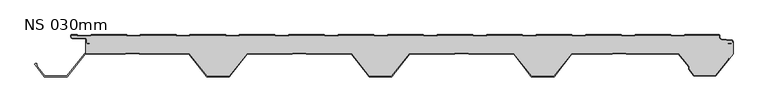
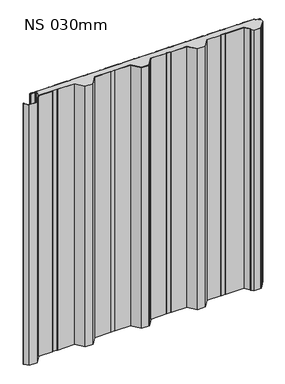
"""IFC4 building model written with IfcOpenShell, lengths in millimetres: plate geometry, KIP-MEX-KC-R19-CP-NS-SL : NS 030mm."""

from ifc_helpers import new_model, si_unit, point, frame, frame_2d, origin, origin_with_axes, place, context, project, spatial, polyline, circle_curve, trimmed, segment, composite_curve, outline, extrude, source, transform, mapped, element, save
from ifc_brep_helpers import plane_surface, cylinder_surface, revolved_surface, advanced_brep


def ns_030mm_47f54e74(model_context):
    return source(origin(), model_context, "Body", "SolidModel", [
        advanced_brep(
        [(489.051258, -40.0327477, 1224.3718713), (491.4166419, -35.6292245, 1224.3718713), (492.2982989, -36.1011177, 1224.3718713), (489.8911639, -40.5823669, 1224.3718713), (498.3652789, -29.7971296, 1224.3718713), (498.3666923, -11.2514375, 1224.3718713), (496.0840542, -13.6351997, 1224.3718713), (490.2938452, -14.1562355, 1224.3718713), (490.2059002, -13.178913, 1224.3718713), (495.9395891, -12.6629632, 1224.3718713), (497.3642752, -10.8760369, 1224.3718713), (495.9342793, -8.8936988, 1224.3718713), (479.8720443, -7.4885937, 1224.3718713), (477.1334803, -4.5000049, 1224.3718713), (477.1334803, -1.0, 1224.3718713), (424.1786391, -1.0, 1224.3718713), (422.7930062, -2.2002307, 1224.3718713), (403.4178399, -2.2002307, 1224.3718713), (402.0322069, -1.0, 1224.3718713), (347.9787915, -1.0, 1224.3718713), (346.5931586, -2.2002307, 1224.3718713), (327.2179923, -2.2002307, 1224.3718713), (325.8323593, -1.0, 1224.3718713), (271.7789439, -1.0, 1224.3718713), (270.393311, -2.2002307, 1224.3718713), (251.0181447, -2.2002307, 1224.3718713), (249.6325117, -1.0, 1224.3718713), (195.5790963, -1.0, 1224.3718713), (194.1934634, -2.2002307, 1224.3718713), (174.8182971, -2.2002307, 1224.3718713), (173.4326641, -1.0, 1224.3718713), (119.3792487, -1.0, 1224.3718713), (117.9936158, -2.2002307, 1224.3718713), (98.6184495, -2.2002307, 1224.3718713), (97.2328165, -1.0, 1224.3718713), (43.1794011, -1.0, 1224.3718713), (41.7937682, -2.2002307, 1224.3718713), (22.4186019, -2.2002307, 1224.3718713), (21.0329689, -1.0, 1224.3718713), (-33.0204465, -1.0, 1224.3718713), (-34.4060794, -2.2002307, 1224.3718713), (-53.7812457, -2.2002307, 1224.3718713), (-55.1668787, -1.0, 1224.3718713), (-109.2202941, -1.0, 1224.3718713), (-110.605927, -2.2002307, 1224.3718713), (-129.9810933, -2.2002307, 1224.3718713), (-131.3667263, -1.0, 1224.3718713), (-185.4201417, -1.0, 1224.3718713), (-186.8057746, -2.2002307, 1224.3718713), (-206.1809409, -2.2002307, 1224.3718713), (-207.5665739, -1.0, 1224.3718713), (-261.6199893, -1.0, 1224.3718713), (-263.0056222, -2.2002307, 1224.3718713), (-282.3807885, -2.2002307, 1224.3718713), (-283.7664215, -1.0, 1224.3718713), (-337.8198369, -1.0, 1224.3718713), (-339.2054698, -2.2002307, 1224.3718713), (-358.5806361, -2.2002307, 1224.3718713), (-359.9662691, -1.0, 1224.3718713), (-414.0196845, -1.0, 1224.3718713), (-415.4053174, -2.2002307, 1224.3718713), (-434.7804837, -2.2002307, 1224.3718713), (-436.1661167, -1.0, 1224.3718713), (-490.2195321, -1.0, 1224.3718713), (-491.605165, -2.2002307, 1224.3718713), (-510.9803313, -2.2002307, 1224.3718713), (-512.365974, -0.9999916, 1224.3718713), (-520.8675386, -0.9999916, 1224.3718713), (-520.8675386, -2.4999198, 1224.3718713), (-518.3676343, -4.9998241, 1224.3718713), (-500.3670493, -4.9998241, 1224.3718713), (-497.3666912, -7.998082, 1224.3718713), (-497.3666912, -11.5943952, 1224.3718713), (-496.1253972, -13.0725686, 1224.3718713), (-492.5830624, -13.6943971, 1224.3718713), (-492.7559608, -14.6793372, 1224.3718713), (-496.2982963, -14.0575086, 1224.3718713), (-498.3666923, -11.5958694, 1224.3718713), (-498.3666923, -29.0, 1224.3718713), (-437.8440582, -29.0, 1224.3718713), (-436.4297751, -27.9999989, 1224.3718713), (-417.2222535, -27.9999989, 1224.3718713), (-415.8079704, -29.0, 1224.3718713), (-339.3089934, -29.0, 1224.3718713), (-311.8089635, -64.000038, 1224.3718713), (-277.7809961, -64.000038, 1224.3718713), (-250.2809663, -29.0, 1224.3718713), (-180.8128881, -29.0, 1224.3718713), (-179.398605, -27.9999989, 1224.3718713), (-160.1910833, -27.9999989, 1224.3718713), (-158.7768003, -29.0, 1224.3718713), (-89.3087221, -29.0, 1224.3718713), (-61.8086922, -64.000038, 1224.3718713), (-27.7807248, -64.000038, 1224.3718713), (-0.280695, -29.0, 1224.3718713), (69.1090864, -29.0, 1224.3718713), (70.1732653, -27.9999989, 1224.3718713), (89.809188, -27.9999989, 1224.3718713), (91.2234711, -29.0, 1224.3718713), (160.6915492, -29.0, 1224.3718713), (188.1915791, -64.000038, 1224.3718713), (222.2195465, -64.000038, 1224.3718713), (249.7195763, -29.0, 1224.3718713), (312.1567557, -29.0, 1224.3718713), (313.5710388, -27.9999989, 1224.3718713), (332.7785605, -27.9999989, 1224.3718713), (334.1928435, -29.0, 1224.3718713), (414.6918249, -29.0, 1224.3718713), (430.7058064, -49.3814311, 1224.3718713), (430.7058064, -53.199617, 1224.3718713), (438.4061363, -63.0000369, 1224.3718713), (471.0055308, -63.0000369, 1224.3718713), (489.051258, -40.0327477, 0.0), (471.0055308, -63.0000369, 0.0), (438.4061363, -63.0000369, 0.0), (430.7058064, -53.199617, 0.0), (430.7058064, -49.3814311, 0.0), (414.6918249, -29.0, 0.0), (334.1928435, -29.0, 0.0), (332.7785605, -27.9999989, 0.0), (313.5710388, -27.9999989, 0.0), (312.1567557, -29.0, 0.0), (249.7195763, -29.0, 0.0), (222.2195465, -64.000038, 0.0), (188.1915791, -64.000038, 0.0), (160.6915492, -29.0, 0.0), (91.2234711, -29.0, 0.0), (89.809188, -27.9999989, 0.0), (70.1732653, -27.9999989, 0.0), (69.1090864, -29.0, 0.0), (-0.280695, -29.0, 0.0), (-27.7807248, -64.000038, 0.0), (-61.8086922, -64.000038, 0.0), (-89.3087221, -29.0, 0.0), (-158.7768003, -29.0, 0.0), (-160.1910833, -27.9999989, 0.0), (-179.398605, -27.9999989, 0.0), (-180.8128881, -29.0, 0.0), (-250.2809663, -29.0, 0.0), (-277.7809961, -64.000038, 0.0), (-311.8089635, -64.000038, 0.0), (-339.3089934, -29.0, 0.0), (-415.8079704, -29.0, 0.0), (-417.2222535, -27.9999989, 0.0), (-436.4297751, -27.9999989, 0.0), (-437.8440582, -29.0, 0.0), (-498.3666923, -29.0, 0.0), (-498.3666923, -11.5958694, 0.0), (-496.2982963, -14.0575086, 0.0), (-492.7559608, -14.6793372, 0.0), (-492.5830624, -13.6943971, 0.0), (-496.1253972, -13.0725686, 0.0), (-497.3666912, -11.5943952, 0.0), (-497.3666912, -7.998082, 0.0), (-500.3670493, -4.9998241, 0.0), (-518.3676343, -4.9998241, 0.0), (-520.8675386, -2.4999198, 0.0), (-520.8675386, -0.9999916, 0.0), (-512.365974, -0.9999916, 0.0), (-510.9803313, -2.2002307, 0.0), (-491.605165, -2.2002307, 0.0), (-490.2195321, -1.0, 0.0), (-436.1661167, -1.0, 0.0), (-434.7804837, -2.2002307, 0.0), (-415.4053174, -2.2002307, 0.0), (-414.0196845, -1.0, 0.0), (-359.9662691, -1.0, 0.0), (-358.5806361, -2.2002307, 0.0), (-339.2054698, -2.2002307, 0.0), (-337.8198369, -1.0, 0.0), (-283.7664215, -1.0, 0.0), (-282.3807885, -2.2002307, 0.0), (-263.0056222, -2.2002307, 0.0), (-261.6199893, -1.0, 0.0), (-207.5665739, -1.0, 0.0), (-206.1809409, -2.2002307, 0.0), (-186.8057746, -2.2002307, 0.0), (-185.4201417, -1.0, 0.0), (-131.3667263, -1.0, 0.0), (-129.9810933, -2.2002307, 0.0), (-110.605927, -2.2002307, 0.0), (-109.2202941, -1.0, 0.0), (-55.1668787, -1.0, 0.0), (-53.7812457, -2.2002307, 0.0), (-34.4060794, -2.2002307, 0.0), (-33.0204465, -1.0, 0.0), (21.0329689, -1.0, 0.0), (22.4186019, -2.2002307, 0.0), (41.7937682, -2.2002307, 0.0), (43.1794011, -1.0, 0.0), (97.2328165, -1.0, 0.0), (98.6184495, -2.2002307, 0.0), (117.9936158, -2.2002307, 0.0), (119.3792487, -1.0, 0.0), (173.4326641, -1.0, 0.0), (174.8182971, -2.2002307, 0.0), (194.1934634, -2.2002307, 0.0), (195.5790963, -1.0, 0.0), (249.6325117, -1.0, 0.0), (251.0181447, -2.2002307, 0.0), (270.393311, -2.2002307, 0.0), (271.7789439, -1.0, 0.0), (325.8323593, -1.0, 0.0), (327.2179923, -2.2002307, 0.0), (346.5931586, -2.2002307, 0.0), (347.9787915, -1.0, 0.0), (402.0322069, -1.0, 0.0), (403.4178399, -2.2002307, 0.0), (422.7930062, -2.2002307, 0.0), (424.1786391, -1.0, 0.0), (477.1334803, -1.0, 0.0), (477.1334803, -4.5000049, 0.0), (479.8720443, -7.4885937, 0.0), (495.9342793, -8.8936988, 0.0), (497.3642752, -10.8760369, 0.0), (495.9395891, -12.6629632, 0.0), (490.2059002, -13.178913, 0.0), (490.2938452, -14.1562355, 0.0), (496.0840542, -13.6351997, 0.0), (498.3666923, -11.2514375, 0.0), (498.3652789, -29.7971296, 0.0), (489.8911639, -40.5823669, 0.0), (492.2982989, -36.1011177, 0.0), (491.4166419, -35.6292245, 0.0)],
        [
            (0, 1),
            (1, 2),
            (2, 3),
            (3, 4),
            (4, 5),
            (5, 6, circle_curve(frame((495.5554081, -10.8441969, 1224.3718713), z_axis=(0.0, 0.0, -1.0), x_axis=(0.0, -1.0, 0.0)), 2.8406273)),
            (6, 7),
            (7, 8),
            (8, 9),
            (9, 10, circle_curve(frame((495.560247, -10.8991179, 1224.3718713), z_axis=(0.0, 0.0, 1.0), x_axis=(0.0, -1.0, 0.0)), 1.8041759)),
            (10, 11, circle_curve(frame((495.5292107, -10.6928483, 1224.3718713), z_axis=(0.0, 0.0, 1.0), x_axis=(0.0, -1.0, 0.0)), 1.8441854)),
            (11, 12),
            (12, 13, circle_curve(frame((480.1334825, -4.5000049, 1224.3718713), z_axis=(0.0, 0.0, -1.0), x_axis=(0.0, -1.0, 0.0)), 3.0000022)),
            (13, 14),
            (14, 15),
            (15, 16),
            (16, 17),
            (17, 18),
            (18, 19),
            (19, 20),
            (20, 21),
            (21, 22),
            (22, 23),
            (23, 24),
            (24, 25),
            (25, 26),
            (26, 27),
            (27, 28),
            (28, 29),
            (29, 30),
            (30, 31),
            (31, 32),
            (32, 33),
            (33, 34),
            (34, 35),
            (35, 36),
            (36, 37),
            (37, 38),
            (38, 39),
            (39, 40),
            (40, 41),
            (41, 42),
            (42, 43),
            (43, 44),
            (44, 45),
            (45, 46),
            (46, 47),
            (47, 48),
            (48, 49),
            (49, 50),
            (50, 51),
            (51, 52),
            (52, 53),
            (53, 54),
            (54, 55),
            (55, 56),
            (56, 57),
            (57, 58),
            (58, 59),
            (59, 60),
            (60, 61),
            (61, 62),
            (62, 63),
            (63, 64),
            (64, 65),
            (65, 66),
            (66, 67),
            (67, 68),
            (68, 69, circle_curve(frame((-518.3676343, -2.4999198, 1224.3718713), z_axis=(0.0, 0.0, 1.0), x_axis=(0.0, -1.0, 0.0)), 2.4999043)),
            (69, 70),
            (70, 71, circle_curve(frame((-500.3670493, -8.0001829, 1224.3718713), z_axis=(0.0, 0.0, -1.0), x_axis=(0.0, -1.0, 0.0)), 3.0003589)),
            (71, 72),
            (72, 73, circle_curve(frame((-495.8659157, -11.5943952, 1224.3718713), z_axis=(0.0, 0.0, 1.0), x_axis=(0.0, -1.0, 0.0)), 1.5007755)),
            (73, 74),
            (74, 75),
            (75, 76),
            (76, 77, circle_curve(frame((-495.8659164, -11.5943948, 1224.3718713), z_axis=(0.0, 0.0, -1.0), x_axis=(0.0, -1.0, 0.0)), 2.5007762)),
            (77, 78),
            (78, 79),
            (79, 80),
            (80, 81),
            (81, 82),
            (82, 83),
            (83, 84),
            (84, 85),
            (85, 86),
            (86, 87),
            (87, 88),
            (88, 89),
            (89, 90),
            (90, 91),
            (91, 92),
            (92, 93),
            (93, 94),
            (94, 95),
            (95, 96),
            (96, 97),
            (97, 98),
            (98, 99),
            (99, 100),
            (100, 101),
            (101, 102),
            (102, 103),
            (103, 104),
            (104, 105),
            (105, 106),
            (106, 107),
            (107, 108),
            (108, 109),
            (109, 110),
            (110, 111),
            (111, 0),
            (112, 113),
            (113, 114),
            (114, 115),
            (115, 116),
            (116, 117),
            (117, 118),
            (118, 119),
            (119, 120),
            (120, 121),
            (121, 122),
            (122, 123),
            (123, 124),
            (124, 125),
            (125, 126),
            (126, 127),
            (127, 128),
            (128, 129),
            (129, 130),
            (130, 131),
            (131, 132),
            (132, 133),
            (133, 134),
            (134, 135),
            (135, 136),
            (136, 137),
            (137, 138),
            (138, 139),
            (139, 140),
            (140, 141),
            (141, 142),
            (142, 143),
            (143, 144),
            (144, 145),
            (145, 146),
            (146, 147),
            (147, 148, circle_curve(frame((-495.8659164, -11.5943948, 0.0), z_axis=(0.0, 0.0, 1.0), x_axis=(0.0, -1.0, 0.0)), 2.5007762)),
            (148, 149),
            (149, 150),
            (150, 151),
            (151, 152, circle_curve(frame((-495.8659157, -11.5943952, 0.0), z_axis=(0.0, 0.0, -1.0), x_axis=(0.0, -1.0, 0.0)), 1.5007755)),
            (152, 153),
            (153, 154, circle_curve(frame((-500.3670493, -8.0001829, 0.0), z_axis=(0.0, 0.0, 1.0), x_axis=(0.0, -1.0, 0.0)), 3.0003589)),
            (154, 155),
            (155, 156, circle_curve(frame((-518.3676343, -2.4999198, 0.0), z_axis=(0.0, 0.0, -1.0), x_axis=(0.0, -1.0, 0.0)), 2.4999043)),
            (156, 157),
            (157, 158),
            (158, 159),
            (159, 160),
            (160, 161),
            (161, 162),
            (162, 163),
            (163, 164),
            (164, 165),
            (165, 166),
            (166, 167),
            (167, 168),
            (168, 169),
            (169, 170),
            (170, 171),
            (171, 172),
            (172, 173),
            (173, 174),
            (174, 175),
            (175, 176),
            (176, 177),
            (177, 178),
            (178, 179),
            (179, 180),
            (180, 181),
            (181, 182),
            (182, 183),
            (183, 184),
            (184, 185),
            (185, 186),
            (186, 187),
            (187, 188),
            (188, 189),
            (189, 190),
            (190, 191),
            (191, 192),
            (192, 193),
            (193, 194),
            (194, 195),
            (195, 196),
            (196, 197),
            (197, 198),
            (198, 199),
            (199, 200),
            (200, 201),
            (201, 202),
            (202, 203),
            (203, 204),
            (204, 205),
            (205, 206),
            (206, 207),
            (207, 208),
            (208, 209),
            (209, 210),
            (210, 211),
            (211, 212, circle_curve(frame((480.1334825, -4.5000049, 0.0), z_axis=(0.0, 0.0, 1.0), x_axis=(0.0, -1.0, 0.0)), 3.0000022)),
            (212, 213),
            (213, 214, circle_curve(frame((495.5292107, -10.6928483, 0.0), z_axis=(0.0, 0.0, -1.0), x_axis=(0.0, -1.0, 0.0)), 1.8441854)),
            (214, 215, circle_curve(frame((495.560247, -10.8991179, 0.0), z_axis=(0.0, 0.0, -1.0), x_axis=(0.0, -1.0, 0.0)), 1.8041759)),
            (215, 216),
            (216, 217),
            (217, 218),
            (218, 219, circle_curve(frame((495.5554081, -10.8441969, 0.0), z_axis=(0.0, 0.0, 1.0), x_axis=(0.0, -1.0, 0.0)), 2.8406273)),
            (219, 220),
            (220, 221),
            (221, 222),
            (222, 223),
            (223, 112),
            (0, 112),
            (223, 1),
            (111, 113),
            (110, 114),
            (109, 115),
            (108, 116),
            (107, 117),
            (106, 118),
            (105, 119),
            (104, 120),
            (103, 121),
            (102, 122),
            (101, 123),
            (100, 124),
            (99, 125),
            (98, 126),
            (97, 127),
            (96, 128),
            (95, 129),
            (94, 130),
            (93, 131),
            (92, 132),
            (91, 133),
            (90, 134),
            (89, 135),
            (88, 136),
            (87, 137),
            (86, 138),
            (85, 139),
            (84, 140),
            (83, 141),
            (82, 142),
            (81, 143),
            (80, 144),
            (79, 145),
            (78, 146),
            (2, 222),
            (221, 3),
            (220, 4),
            (219, 5),
            (77, 147),
            (73, 151),
            (150, 74),
            (72, 152),
            (71, 153),
            (70, 154),
            (69, 155),
            (68, 156),
            (67, 157),
            (13, 211),
            (210, 14),
            (12, 212),
            (11, 213),
            (10, 214),
            (9, 215),
            (8, 216),
            (7, 217),
            (6, 218),
            (76, 148),
            (75, 149),
            (66, 158),
            (65, 159),
            (64, 160),
            (63, 161),
            (62, 162),
            (61, 163),
            (60, 164),
            (59, 165),
            (58, 166),
            (57, 167),
            (56, 168),
            (55, 169),
            (54, 170),
            (53, 171),
            (52, 172),
            (51, 173),
            (50, 174),
            (49, 175),
            (48, 176),
            (47, 177),
            (46, 178),
            (45, 179),
            (44, 180),
            (43, 181),
            (42, 182),
            (41, 183),
            (40, 184),
            (39, 185),
            (38, 186),
            (37, 187),
            (36, 188),
            (35, 189),
            (34, 190),
            (33, 191),
            (32, 192),
            (31, 193),
            (30, 194),
            (29, 195),
            (28, 196),
            (27, 197),
            (26, 198),
            (25, 199),
            (24, 200),
            (23, 201),
            (22, 202),
            (21, 203),
            (20, 204),
            (19, 205),
            (18, 206),
            (17, 207),
            (16, 208),
            (15, 209),
        ],
        [
            plane_surface(frame((0.0, -29.0, 1224.3718713), z_axis=(0.0, 0.0, 1.0), x_axis=(0.0, -1.0, 0.0))),
            plane_surface(frame((0.0, -29.0, 0.0), z_axis=(0.0, 0.0, -1.0), x_axis=(0.0, -1.0, 0.0))),
            plane_surface(frame((491.4166419, -35.6292245, 1224.3718713), z_axis=(0.8809503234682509, -0.4732087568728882, 0.0), x_axis=(0.0, 0.0, -1.0))),
            plane_surface(frame((489.051258, -40.0327477, 1224.3718713), z_axis=(0.7863183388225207, -0.6178215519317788, 0.0), x_axis=(0.0, 0.0, -1.0))),
            plane_surface(frame((471.0055308, -63.0000369, 1224.3718713), z_axis=(0.0, -1.0, 0.0), x_axis=(0.0, 0.0, -1.0))),
            plane_surface(frame((438.4061363, -63.0000369, 1224.3718713), z_axis=(-0.7863183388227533, -0.6178215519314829, 0.0), x_axis=(0.0, 0.0, -1.0))),
            plane_surface(frame((430.7058064, -53.199617, 1224.3718713), z_axis=(-1.0, 0.0, 0.0), x_axis=(0.0, 0.0, -1.0))),
            plane_surface(frame((430.7058064, -49.3814311, 1224.3718713), z_axis=(-0.7863183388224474, -0.6178215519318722, 0.0), x_axis=(0.0, 0.0, -1.0))),
            plane_surface(frame((414.6918249, -29.0, 1224.3718713), z_axis=(0.0, -1.0, 0.0), x_axis=(0.0, 0.0, -1.0))),
            plane_surface(frame((334.1928435, -29.0, 1224.3718713), z_axis=(-0.5773317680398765, -0.8165096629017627, 0.0), x_axis=(0.0, 0.0, -1.0))),
            plane_surface(frame((332.7785605, -27.9999989, 1224.3718713), z_axis=(0.0, -1.0, 0.0), x_axis=(0.0, 0.0, -1.0))),
            plane_surface(frame((313.5710388, -27.9999989, 1224.3718713), z_axis=(0.5773317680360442, -0.8165096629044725, 0.0), x_axis=(0.0, 0.0, -1.0))),
            plane_surface(frame((312.1567557, -29.0, 1224.3718713), z_axis=(0.0, -1.0, 0.0), x_axis=(0.0, 0.0, -1.0))),
            plane_surface(frame((249.7195763, -29.0, 1224.3718713), z_axis=(0.7863183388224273, -0.6178215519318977, 0.0), x_axis=(0.0, 0.0, -1.0))),
            plane_surface(frame((222.2195465, -64.000038, 1224.3718713), z_axis=(0.0, -1.0, 0.0), x_axis=(0.0, 0.0, -1.0))),
            plane_surface(frame((188.1915791, -64.000038, 1224.3718713), z_axis=(-0.7863183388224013, -0.6178215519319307, 0.0), x_axis=(0.0, 0.0, -1.0))),
            plane_surface(frame((160.6915492, -29.0, 1224.3718713), z_axis=(0.0, -1.0, 0.0), x_axis=(0.0, 0.0, -1.0))),
            plane_surface(frame((91.2234711, -29.0, 1224.3718713), z_axis=(-0.5773317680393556, -0.8165096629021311, 0.0), x_axis=(0.0, 0.0, -1.0))),
            plane_surface(frame((89.809188, -27.9999989, 1224.3718713), z_axis=(0.0, -1.0, 0.0), x_axis=(0.0, 0.0, -1.0))),
            plane_surface(frame((70.1732653, -27.9999989, 1224.3718713), z_axis=(0.6847910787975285, -0.7287394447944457, 0.0), x_axis=(0.0, 0.0, -1.0))),
            plane_surface(frame((69.1090864, -29.0, 1224.3718713), z_axis=(0.0, -1.0, 0.0), x_axis=(0.0, 0.0, -1.0))),
            plane_surface(frame((-0.280695, -29.0, 1224.3718713), z_axis=(0.7863183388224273, -0.6178215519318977, 0.0), x_axis=(0.0, 0.0, -1.0))),
            plane_surface(frame((-27.7807248, -64.000038, 1224.3718713), z_axis=(0.0, -1.0, 0.0), x_axis=(0.0, 0.0, -1.0))),
            plane_surface(frame((-61.8086922, -64.000038, 1224.3718713), z_axis=(-0.786318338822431, -0.617821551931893, 0.0), x_axis=(0.0, 0.0, -1.0))),
            plane_surface(frame((-89.3087221, -29.0, 1224.3718713), z_axis=(0.0, -1.0, 0.0), x_axis=(0.0, 0.0, -1.0))),
            plane_surface(frame((-158.7768003, -29.0, 1224.3718713), z_axis=(-0.5773317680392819, -0.8165096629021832, 0.0), x_axis=(0.0, 0.0, -1.0))),
            plane_surface(frame((-160.1910833, -27.9999989, 1224.3718713), z_axis=(0.0, -1.0, 0.0), x_axis=(0.0, 0.0, -1.0))),
            plane_surface(frame((-179.398605, -27.9999989, 1224.3718713), z_axis=(0.577331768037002, -0.8165096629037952, 0.0), x_axis=(0.0, 0.0, -1.0))),
            plane_surface(frame((-180.8128881, -29.0, 1224.3718713), z_axis=(0.0, -1.0, 0.0), x_axis=(0.0, 0.0, -1.0))),
            plane_surface(frame((-250.2809663, -29.0, 1224.3718713), z_axis=(0.7863183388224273, -0.6178215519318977, 0.0), x_axis=(0.0, 0.0, -1.0))),
            plane_surface(frame((-277.7809961, -64.000038, 1224.3718713), z_axis=(0.0, -1.0, 0.0), x_axis=(0.0, 0.0, -1.0))),
            plane_surface(frame((-311.8089635, -64.000038, 1224.3718713), z_axis=(-0.7863183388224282, -0.6178215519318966, 0.0), x_axis=(0.0, 0.0, -1.0))),
            plane_surface(frame((-339.3089934, -29.0, 1224.3718713), z_axis=(0.0, -1.0, 0.0), x_axis=(0.0, 0.0, -1.0))),
            plane_surface(frame((-415.8079704, -29.0, 1224.3718713), z_axis=(-0.577331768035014, -0.8165096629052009, 0.0), x_axis=(0.0, 0.0, -1.0))),
            plane_surface(frame((-417.2222535, -27.9999989, 1224.3718713), z_axis=(0.0, -1.0, 0.0), x_axis=(0.0, 0.0, -1.0))),
            plane_surface(frame((-436.4297751, -27.9999989, 1224.3718713), z_axis=(0.577331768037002, -0.8165096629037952, 0.0), x_axis=(0.0, 0.0, -1.0))),
            plane_surface(frame((-437.8440582, -29.0, 1224.3718713), z_axis=(0.0, -1.0, 0.0), x_axis=(0.0, 0.0, -1.0))),
            plane_surface(frame((489.8911639, -40.5823669, 1224.3718713), z_axis=(-0.8809503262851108, 0.4732087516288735, 0.0), x_axis=(0.0, 0.0, -1.0))),
            plane_surface(frame((492.2982989, -36.1011177, 1224.3718713), z_axis=(-0.4718927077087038, -0.8816559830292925, 0.0), x_axis=(0.0, 0.0, -1.0))),
            plane_surface(frame((498.3652789, -29.7971296, 1224.3718713), z_axis=(0.7863183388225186, -0.6178215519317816, 0.0), x_axis=(0.0, 0.0, -1.0))),
            plane_surface(frame((498.3652789, -24.8065083, 1224.3718713), z_axis=(1.0, 0.0, 0.0), x_axis=(0.0, 0.0, -1.0))),
            plane_surface(frame((-498.3666923, -29.0, 1224.3718713), z_axis=(-1.0, 0.0, 0.0), x_axis=(0.0, 0.0, -1.0))),
            plane_surface(frame((-492.5830624, -13.6943971, 1224.3718713), z_axis=(-0.17289827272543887, -0.9849396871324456, 0.0), x_axis=(0.0, 0.0, -1.0))),
            cylinder_surface(frame((-495.8659157, -11.5943952, 1224.3718713), z_axis=(0.0, 0.0, 1.0), x_axis=(0.0, -1.0, 0.0)), 1.5007755),
            plane_surface(frame((-497.3666912, -11.5943952, 1224.3718713), z_axis=(-1.0, 0.0, 0.0), x_axis=(0.0, 0.0, -1.0))),
            revolved_surface(polyline([(-500.3670493, -11.0005418, 0.0), (-500.3670493, -11.0005418, 1224.3718713)]), (-500.3670493, -8.0001829, 1224.3718713), (0.0, 0.0, -1.0)),
            plane_surface(frame((-500.3670493, -4.9998241, 1224.3718713), z_axis=(0.0, -1.0, 0.0), x_axis=(0.0, 0.0, -1.0))),
            cylinder_surface(frame((-518.3676343, -2.4999198, 1224.3718713), z_axis=(0.0, 0.0, 1.0), x_axis=(0.0, -1.0, 0.0)), 2.4999043),
            plane_surface(frame((-520.8675386, -2.4999198, 1224.3718713), z_axis=(-1.0, 0.0, 0.0), x_axis=(0.0, 0.0, -1.0))),
            plane_surface(frame((477.1334803, -1.0, 1224.3718713), z_axis=(1.0, 0.0, 0.0), x_axis=(0.0, 0.0, -1.0))),
            revolved_surface(polyline([(480.1334825, -7.5000071, 0.0), (480.1334825, -7.5000071, 1224.3718713)]), (480.1334825, -4.5000049, 1224.3718713), (0.0, 0.0, -1.0)),
            plane_surface(frame((479.8720443, -7.4885937, 1224.3718713), z_axis=(0.0871459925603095, 0.9961955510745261, 0.0), x_axis=(0.0, 0.0, -1.0))),
            cylinder_surface(frame((495.5292107, -10.6928483, 1224.3718713), z_axis=(0.0, 0.0, 1.0), x_axis=(0.0, -1.0, 0.0)), 1.8441854),
            cylinder_surface(frame((495.560247, -10.8991179, 1224.3718713), z_axis=(0.0, 0.0, 1.0), x_axis=(0.0, -1.0, 0.0)), 1.8041759),
            plane_surface(frame((495.9395891, -12.6629632, 1224.3718713), z_axis=(0.0896235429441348, -0.995975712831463, 0.0), x_axis=(0.0, 0.0, -1.0))),
            plane_surface(frame((490.2059002, -13.178913, 1224.3718713), z_axis=(0.9959757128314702, 0.08962354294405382, 0.0), x_axis=(0.0, 0.0, -1.0))),
            plane_surface(frame((490.2938452, -14.1562355, 1224.3718713), z_axis=(-0.0896235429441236, 0.995975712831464, 0.0), x_axis=(0.0, 0.0, -1.0))),
            revolved_surface(polyline([(495.5554081, -13.6848242, 0.0), (495.5554081, -13.6848242, 1224.3718713)]), (495.5554081, -10.8441969, 1224.3718713), (0.0, 0.0, -1.0)),
            revolved_surface(polyline([(-495.8659164, -14.095171, 0.0), (-495.8659164, -14.095171, 1224.3718713)]), (-495.8659164, -11.5943948, 1224.3718713), (0.0, 0.0, -1.0)),
            plane_surface(frame((-496.2982963, -14.0575086, 1224.3718713), z_axis=(0.17289827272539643, 0.9849396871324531, 0.0), x_axis=(0.0, 0.0, -1.0))),
            plane_surface(frame((-492.7559608, -14.6793372, 1224.3718713), z_axis=(-0.9849396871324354, 0.1728982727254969, 0.0), x_axis=(0.0, 0.0, -1.0))),
            plane_surface(frame((-520.8675386, -0.9999916, 1224.3718713), z_axis=(0.0, 1.0, 0.0), x_axis=(0.0, 0.0, -1.0))),
            plane_surface(frame((-512.365974, -0.9999916, 1224.3718713), z_axis=(0.6547276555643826, 0.7558648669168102, 0.0), x_axis=(0.0, 0.0, -1.0))),
            plane_surface(frame((-510.9803313, -2.2002307, 1224.3718713), z_axis=(0.0, 1.0, 0.0), x_axis=(0.0, 0.0, -1.0))),
            plane_surface(frame((-491.605165, -2.2002307, 1224.3718713), z_axis=(-0.6547276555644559, 0.7558648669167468, 0.0), x_axis=(0.0, 0.0, -1.0))),
            plane_surface(frame((-490.2195321, -1.0, 1224.3718713), z_axis=(0.0, 1.0, 0.0), x_axis=(0.0, 0.0, -1.0))),
            plane_surface(frame((-436.1661167, -1.0, 1224.3718713), z_axis=(0.6547276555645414, 0.7558648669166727, 0.0), x_axis=(0.0, 0.0, -1.0))),
            plane_surface(frame((-434.7804837, -2.2002307, 1224.3718713), z_axis=(0.0, 1.0, 0.0), x_axis=(0.0, 0.0, -1.0))),
            plane_surface(frame((-415.4053174, -2.2002307, 1224.3718713), z_axis=(-0.6547276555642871, 0.755864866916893, 0.0), x_axis=(0.0, 0.0, -1.0))),
            plane_surface(frame((-414.0196845, -1.0, 1224.3718713), z_axis=(0.0, 1.0, 0.0), x_axis=(0.0, 0.0, -1.0))),
            plane_surface(frame((-359.9662691, -1.0, 1224.3718713), z_axis=(0.6547276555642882, 0.7558648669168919, 0.0), x_axis=(0.0, 0.0, -1.0))),
            plane_surface(frame((-358.5806361, -2.2002307, 1224.3718713), z_axis=(0.0, 1.0, 0.0), x_axis=(0.0, 0.0, -1.0))),
            plane_surface(frame((-339.2054698, -2.2002307, 1224.3718713), z_axis=(-0.6547276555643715, 0.7558648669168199, 0.0), x_axis=(0.0, 0.0, -1.0))),
            plane_surface(frame((-337.8198369, -1.0, 1224.3718713), z_axis=(0.0, 1.0, 0.0), x_axis=(0.0, 0.0, -1.0))),
            plane_surface(frame((-283.7664215, -1.0, 1224.3718713), z_axis=(0.6547276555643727, 0.7558648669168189, 0.0), x_axis=(0.0, 0.0, -1.0))),
            plane_surface(frame((-282.3807885, -2.2002307, 1224.3718713), z_axis=(0.0, 1.0, 0.0), x_axis=(0.0, 0.0, -1.0))),
            plane_surface(frame((-263.0056222, -2.2002307, 1224.3718713), z_axis=(-0.6547276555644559, 0.7558648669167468, 0.0), x_axis=(0.0, 0.0, -1.0))),
            plane_surface(frame((-261.6199893, -1.0, 1224.3718713), z_axis=(0.0, 1.0, 0.0), x_axis=(0.0, 0.0, -1.0))),
            plane_surface(frame((-207.5665739, -1.0, 1224.3718713), z_axis=(0.654727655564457, 0.7558648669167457, 0.0), x_axis=(0.0, 0.0, -1.0))),
            plane_surface(frame((-206.1809409, -2.2002307, 1224.3718713), z_axis=(0.0, 1.0, 0.0), x_axis=(0.0, 0.0, -1.0))),
            plane_surface(frame((-186.8057746, -2.2002307, 1224.3718713), z_axis=(-0.6547276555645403, 0.7558648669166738, 0.0), x_axis=(0.0, 0.0, -1.0))),
            plane_surface(frame((-185.4201417, -1.0, 1224.3718713), z_axis=(0.0, 1.0, 0.0), x_axis=(0.0, 0.0, -1.0))),
            plane_surface(frame((-131.3667263, -1.0, 1224.3718713), z_axis=(0.6547276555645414, 0.7558648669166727, 0.0), x_axis=(0.0, 0.0, -1.0))),
            plane_surface(frame((-129.9810933, -2.2002307, 1224.3718713), z_axis=(0.0, 1.0, 0.0), x_axis=(0.0, 0.0, -1.0))),
            plane_surface(frame((-110.605927, -2.2002307, 1224.3718713), z_axis=(-0.6547276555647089, 0.7558648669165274, 0.0), x_axis=(0.0, 0.0, -1.0))),
            plane_surface(frame((-109.2202941, -1.0, 1224.3718713), z_axis=(0.0, 1.0, 0.0), x_axis=(0.0, 0.0, -1.0))),
            plane_surface(frame((-55.1668787, -1.0, 1224.3718713), z_axis=(0.6547276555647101, 0.7558648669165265, 0.0), x_axis=(0.0, 0.0, -1.0))),
            plane_surface(frame((-53.7812457, -2.2002307, 1224.3718713), z_axis=(0.0, 1.0, 0.0), x_axis=(0.0, 0.0, -1.0))),
            plane_surface(frame((-34.4060794, -2.2002307, 1224.3718713), z_axis=(-0.6547276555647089, 0.7558648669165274, 0.0), x_axis=(0.0, 0.0, -1.0))),
            plane_surface(frame((-33.0204465, -1.0, 1224.3718713), z_axis=(0.0, 1.0, 0.0), x_axis=(0.0, 0.0, -1.0))),
            plane_surface(frame((21.0329689, -1.0, 1224.3718713), z_axis=(0.6547276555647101, 0.7558648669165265, 0.0), x_axis=(0.0, 0.0, -1.0))),
            plane_surface(frame((22.4186019, -2.2002307, 1224.3718713), z_axis=(0.0, 1.0, 0.0), x_axis=(0.0, 0.0, -1.0))),
            plane_surface(frame((41.7937682, -2.2002307, 1224.3718713), z_axis=(-0.6547276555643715, 0.7558648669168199, 0.0), x_axis=(0.0, 0.0, -1.0))),
            plane_surface(frame((43.1794011, -1.0, 1224.3718713), z_axis=(0.0, 1.0, 0.0), x_axis=(0.0, 0.0, -1.0))),
            plane_surface(frame((97.2328165, -1.0, 1224.3718713), z_axis=(0.6547276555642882, 0.7558648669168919, 0.0), x_axis=(0.0, 0.0, -1.0))),
            plane_surface(frame((98.6184495, -2.2002307, 1224.3718713), z_axis=(0.0, 1.0, 0.0), x_axis=(0.0, 0.0, -1.0))),
            plane_surface(frame((117.9936158, -2.2002307, 1224.3718713), z_axis=(-0.6547276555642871, 0.755864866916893, 0.0), x_axis=(0.0, 0.0, -1.0))),
            plane_surface(frame((119.3792487, -1.0, 1224.3718713), z_axis=(0.0, 1.0, 0.0), x_axis=(0.0, 0.0, -1.0))),
            plane_surface(frame((173.4326641, -1.0, 1224.3718713), z_axis=(0.6547276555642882, 0.7558648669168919, 0.0), x_axis=(0.0, 0.0, -1.0))),
            plane_surface(frame((174.8182971, -2.2002307, 1224.3718713), z_axis=(0.0, 1.0, 0.0), x_axis=(0.0, 0.0, -1.0))),
            plane_surface(frame((194.1934634, -2.2002307, 1224.3718713), z_axis=(-0.6547276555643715, 0.7558648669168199, 0.0), x_axis=(0.0, 0.0, -1.0))),
            plane_surface(frame((195.5790963, -1.0, 1224.3718713), z_axis=(0.0, 1.0, 0.0), x_axis=(0.0, 0.0, -1.0))),
            plane_surface(frame((249.6325117, -1.0, 1224.3718713), z_axis=(0.6547276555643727, 0.7558648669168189, 0.0), x_axis=(0.0, 0.0, -1.0))),
            plane_surface(frame((251.0181447, -2.2002307, 1224.3718713), z_axis=(0.0, 1.0, 0.0), x_axis=(0.0, 0.0, -1.0))),
            plane_surface(frame((270.393311, -2.2002307, 1224.3718713), z_axis=(-0.6547276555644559, 0.7558648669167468, 0.0), x_axis=(0.0, 0.0, -1.0))),
            plane_surface(frame((271.7789439, -1.0, 1224.3718713), z_axis=(0.0, 1.0, 0.0), x_axis=(0.0, 0.0, -1.0))),
            plane_surface(frame((325.8323593, -1.0, 1224.3718713), z_axis=(0.654727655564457, 0.7558648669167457, 0.0), x_axis=(0.0, 0.0, -1.0))),
            plane_surface(frame((327.2179923, -2.2002307, 1224.3718713), z_axis=(0.0, 1.0, 0.0), x_axis=(0.0, 0.0, -1.0))),
            plane_surface(frame((346.5931586, -2.2002307, 1224.3718713), z_axis=(-0.6547276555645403, 0.7558648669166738, 0.0), x_axis=(0.0, 0.0, -1.0))),
            plane_surface(frame((347.9787915, -1.0, 1224.3718713), z_axis=(0.0, 1.0, 0.0), x_axis=(0.0, 0.0, -1.0))),
            plane_surface(frame((402.0322069, -1.0, 1224.3718713), z_axis=(0.6547276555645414, 0.7558648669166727, 0.0), x_axis=(0.0, 0.0, -1.0))),
            plane_surface(frame((403.4178399, -2.2002307, 1224.3718713), z_axis=(0.0, 1.0, 0.0), x_axis=(0.0, 0.0, -1.0))),
            plane_surface(frame((422.7930062, -2.2002307, 1224.3718713), z_axis=(-0.6547276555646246, 0.7558648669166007, 0.0), x_axis=(0.0, 0.0, -1.0))),
            plane_surface(frame((424.1786391, -1.0, 1224.3718713), z_axis=(0.0, 1.0, 0.0), x_axis=(0.0, 0.0, -1.0))),
        ],
        [
            (0, [[1, 2, 3, 4, 5, 6, 7, 8, 9, 10, 11, 12, 13, 14, 15, 16, 17, 18, 19, 20, 21, 22, 23, 24, 25, 26, 27, 28, 29, 30, 31, 32, 33, 34, 35, 36, 37, 38, 39, 40, 41, 42, 43, 44, 45, 46, 47, 48, 49, 50, 51, 52, 53, 54, 55, 56, 57, 58, 59, 60, 61, 62, 63, 64, 65, 66, 67, 68, 69, 70, 71, 72, 73, 74, 75, 76, 77, 78, 79, 80, 81, 82, 83, 84, 85, 86, 87, 88, 89, 90, 91, 92, 93, 94, 95, 96, 97, 98, 99, 100, 101, 102, 103, 104, 105, 106, 107, 108, 109, 110, 111, 112]]),
            (1, [[113, 114, 115, 116, 117, 118, 119, 120, 121, 122, 123, 124, 125, 126, 127, 128, 129, 130, 131, 132, 133, 134, 135, 136, 137, 138, 139, 140, 141, 142, 143, 144, 145, 146, 147, 148, 149, 150, 151, 152, 153, 154, 155, 156, 157, 158, 159, 160, 161, 162, 163, 164, 165, 166, 167, 168, 169, 170, 171, 172, 173, 174, 175, 176, 177, 178, 179, 180, 181, 182, 183, 184, 185, 186, 187, 188, 189, 190, 191, 192, 193, 194, 195, 196, 197, 198, 199, 200, 201, 202, 203, 204, 205, 206, 207, 208, 209, 210, 211, 212, 213, 214, 215, 216, 217, 218, 219, 220, 221, 222, 223, 224]]),
            (2, [[225, -224, 226, -1]]),
            (3, [[227, -113, -225, -112]]),
            (4, [[228, -114, -227, -111]]),
            (5, [[229, -115, -228, -110]]),
            (6, [[230, -116, -229, -109]]),
            (7, [[231, -117, -230, -108]]),
            (8, [[232, -118, -231, -107]]),
            (9, [[233, -119, -232, -106]]),
            (10, [[234, -120, -233, -105]]),
            (11, [[235, -121, -234, -104]]),
            (12, [[236, -122, -235, -103]]),
            (13, [[237, -123, -236, -102]]),
            (14, [[238, -124, -237, -101]]),
            (15, [[239, -125, -238, -100]]),
            (16, [[240, -126, -239, -99]]),
            (17, [[241, -127, -240, -98]]),
            (18, [[242, -128, -241, -97]]),
            (19, [[243, -129, -242, -96]]),
            (20, [[244, -130, -243, -95]]),
            (21, [[245, -131, -244, -94]]),
            (22, [[246, -132, -245, -93]]),
            (23, [[247, -133, -246, -92]]),
            (24, [[248, -134, -247, -91]]),
            (25, [[249, -135, -248, -90]]),
            (26, [[250, -136, -249, -89]]),
            (27, [[251, -137, -250, -88]]),
            (28, [[252, -138, -251, -87]]),
            (29, [[253, -139, -252, -86]]),
            (30, [[254, -140, -253, -85]]),
            (31, [[255, -141, -254, -84]]),
            (32, [[256, -142, -255, -83]]),
            (33, [[257, -143, -256, -82]]),
            (34, [[258, -144, -257, -81]]),
            (35, [[259, -145, -258, -80]]),
            (36, [[260, -146, -259, -79]]),
            (37, [[261, -222, 262, -3]]),
            (38, [[-226, -223, -261, -2]]),
            (39, [[-262, -221, 263, -4]]),
            (40, [[-263, -220, 264, -5]]),
            (41, [[265, -147, -260, -78]]),
            (42, [[266, -151, 267, -74]]),
            (43, [[268, -152, -266, -73]]),
            (44, [[269, -153, -268, -72]]),
            (45, [[270, -154, -269, -71]]),
            (46, [[271, -155, -270, -70]]),
            (47, [[272, -156, -271, -69]]),
            (48, [[273, -157, -272, -68]]),
            (49, [[274, -211, 275, -14]]),
            (50, [[276, -212, -274, -13]]),
            (51, [[277, -213, -276, -12]]),
            (52, [[278, -214, -277, -11]]),
            (53, [[279, -215, -278, -10]]),
            (54, [[280, -216, -279, -9]]),
            (55, [[281, -217, -280, -8]]),
            (56, [[282, -218, -281, -7]]),
            (57, [[-264, -219, -282, -6]]),
            (58, [[283, -148, -265, -77]]),
            (59, [[284, -149, -283, -76]]),
            (60, [[-267, -150, -284, -75]]),
            (61, [[285, -158, -273, -67]]),
            (62, [[286, -159, -285, -66]]),
            (63, [[287, -160, -286, -65]]),
            (64, [[288, -161, -287, -64]]),
            (65, [[289, -162, -288, -63]]),
            (66, [[290, -163, -289, -62]]),
            (67, [[291, -164, -290, -61]]),
            (68, [[292, -165, -291, -60]]),
            (69, [[293, -166, -292, -59]]),
            (70, [[294, -167, -293, -58]]),
            (71, [[295, -168, -294, -57]]),
            (72, [[296, -169, -295, -56]]),
            (73, [[297, -170, -296, -55]]),
            (74, [[298, -171, -297, -54]]),
            (75, [[299, -172, -298, -53]]),
            (76, [[300, -173, -299, -52]]),
            (77, [[301, -174, -300, -51]]),
            (78, [[302, -175, -301, -50]]),
            (79, [[303, -176, -302, -49]]),
            (80, [[304, -177, -303, -48]]),
            (81, [[305, -178, -304, -47]]),
            (82, [[306, -179, -305, -46]]),
            (83, [[307, -180, -306, -45]]),
            (84, [[308, -181, -307, -44]]),
            (85, [[309, -182, -308, -43]]),
            (86, [[310, -183, -309, -42]]),
            (87, [[311, -184, -310, -41]]),
            (88, [[312, -185, -311, -40]]),
            (89, [[313, -186, -312, -39]]),
            (90, [[314, -187, -313, -38]]),
            (91, [[315, -188, -314, -37]]),
            (92, [[316, -189, -315, -36]]),
            (93, [[317, -190, -316, -35]]),
            (94, [[318, -191, -317, -34]]),
            (95, [[319, -192, -318, -33]]),
            (96, [[320, -193, -319, -32]]),
            (97, [[321, -194, -320, -31]]),
            (98, [[322, -195, -321, -30]]),
            (99, [[323, -196, -322, -29]]),
            (100, [[324, -197, -323, -28]]),
            (101, [[325, -198, -324, -27]]),
            (102, [[326, -199, -325, -26]]),
            (103, [[327, -200, -326, -25]]),
            (104, [[328, -201, -327, -24]]),
            (105, [[329, -202, -328, -23]]),
            (106, [[330, -203, -329, -22]]),
            (107, [[331, -204, -330, -21]]),
            (108, [[332, -205, -331, -20]]),
            (109, [[333, -206, -332, -19]]),
            (110, [[334, -207, -333, -18]]),
            (111, [[335, -208, -334, -17]]),
            (112, [[336, -209, -335, -16]]),
            (113, [[-275, -210, -336, -15]]),
        ],
    ),
        extrude(outline(composite_curve([segment(polyline([(478.1334775, -1.4999961), (478.1334775, -4.4999933)]), True, "CONTINUOUS"), segment(trimmed(circle_curve(frame_2d((480.1334812, -4.4999933)), 2.0000037), [point((478.1334775, -4.4999933))], [point((479.9591695, -6.4923864))], True, "CARTESIAN"), True, "CONTINUOUS"), segment(polyline([(479.9591695, -6.4923864), (496.082008, -7.9029509)]), True, "CONTINUOUS"), segment(trimmed(circle_curve(frame_2d((495.5416287, -10.6752534)), 2.8244771), [point((496.082008, -7.9029509))], [point((498.3641211, -10.7811193))], False, "CARTESIAN"), True, "CONTINUOUS"), segment(trimmed(circle_curve(frame_2d((495.5596027, -10.901237)), 2.8070896), [point((498.3641211, -10.7811193))], [point((496.082008, -13.6592878))], False, "CARTESIAN"), True, "CONTINUOUS"), segment(polyline([(496.082008, -13.6592878), (490.2934558, -14.1657205), (490.2063001, -13.1695258), (495.9395575, -12.6679308)]), True, "CONTINUOUS"), segment(trimmed(circle_curve(frame_2d((495.5596027, -10.901237)), 1.8070896), [point((495.9395575, -12.6679308))], [point((497.3665444, -10.8781186))], True, "CARTESIAN"), True, "CONTINUOUS"), segment(trimmed(circle_curve(frame_2d((495.5297649, -10.6947587)), 1.8459089), [point((497.3665444, -10.8781186))], [point((495.935212, -8.8939277))], True, "CARTESIAN"), True, "CONTINUOUS"), segment(polyline([(495.935212, -8.8939277), (479.872015, -7.4885801)]), True, "CONTINUOUS"), segment(trimmed(circle_curve(frame_2d((480.1334825, -4.4999938)), 3.0000022), [point((479.872015, -7.4885801))], [point((477.1334803, -4.4999938))], False, "CARTESIAN"), True, "CONTINUOUS"), segment(polyline([(477.1334803, -4.4999938), (477.1334803, -1.0), (424.1786391, -1.0), (422.7930061, -2.2002307), (403.4178398, -2.2002307), (402.0322069, -1.0), (347.9787915, -1.0), (346.5931585, -2.2002307), (327.2179922, -2.2002307), (325.8323593, -1.0), (271.7789439, -1.0), (270.3933109, -2.2002307), (251.0181446, -2.2002307), (249.6325117, -1.0), (195.5790963, -1.0), (194.1934633, -2.2002307), (174.818297, -2.2002307), (173.4326641, -1.0), (119.3792487, -1.0), (117.9936157, -2.2002307), (98.6184494, -2.2002307), (97.2328165, -1.0), (43.1794011, -1.0), (41.7937681, -2.2002307), (22.4186018, -2.2002307), (21.0329689, -1.0), (-33.0204465, -1.0), (-34.4060795, -2.2002307), (-53.7812458, -2.2002307), (-55.1668787, -1.0), (-109.2202941, -1.0), (-110.6059271, -2.2002307), (-129.9810934, -2.2002307), (-131.3667263, -1.0), (-185.4201417, -1.0), (-186.8057747, -2.2002307), (-206.180941, -2.2002307), (-207.5665739, -1.0), (-261.6199893, -1.0), (-263.0056223, -2.2002307), (-282.3807886, -2.2002307), (-283.7664215, -1.0), (-337.8198369, -1.0), (-339.2054699, -2.2002307), (-358.5806362, -2.2002307), (-359.9662691, -1.0), (-414.0196845, -1.0), (-415.4053175, -2.2002307), (-434.7804838, -2.2002307), (-436.1661167, -1.0), (-490.2195321, -1.0), (-491.6051651, -2.2002307), (-510.9803314, -2.2002307), (-512.3659771, -0.9999889), (-520.8675386, -0.9999889), (-520.8675386, -2.4999087)]), True, "CONTINUOUS"), segment(trimmed(circle_curve(frame_2d((-518.3676343, -2.4999087)), 2.4999043), [point((-520.8675386, -2.4999087))], [point((-518.3676343, -4.999813))], True, "CARTESIAN"), True, "CONTINUOUS"), segment(polyline([(-518.3676343, -4.999813), (-500.3670493, -4.999813)]), True, "CONTINUOUS"), segment(trimmed(circle_curve(frame_2d((-500.3670493, -8.0001719)), 3.0003589), [point((-500.3670493, -4.999813))], [point((-497.3666911, -7.9980709))], False, "CARTESIAN"), True, "CONTINUOUS"), segment(polyline([(-497.3666911, -7.9980709), (-497.3666911, -11.5943841)]), True, "CONTINUOUS"), segment(trimmed(circle_curve(frame_2d((-495.8659158, -11.5943841)), 1.5007756), [point((-497.3666911, -11.5943841))], [point((-496.1253973, -13.0725576))], True, "CARTESIAN"), True, "CONTINUOUS"), segment(polyline([(-496.1253973, -13.0725576), (-492.5830625, -13.694386), (-492.7559608, -14.6793261), (-496.2982963, -14.0574975)]), True, "CONTINUOUS"), segment(trimmed(circle_curve(frame_2d((-495.8659164, -11.5943838)), 2.5007763), [point((-496.2982963, -14.0574975))], [point((-498.3666923, -11.5958583))], False, "CARTESIAN"), True, "CONTINUOUS"), segment(polyline([(-498.3666923, -11.5958583), (-498.3666923, -7.9986755)]), True, "CONTINUOUS"), segment(trimmed(circle_curve(frame_2d((-500.3670479, -8.0001747)), 2.0003562), [point((-498.3666923, -7.9986755))], [point((-500.3670479, -5.9998185))], True, "CARTESIAN"), True, "CONTINUOUS"), segment(polyline([(-500.3670479, -5.9998185), (-518.3676454, -5.9998185)]), True, "CONTINUOUS"), segment(trimmed(circle_curve(frame_2d((-518.3676454, -2.4999032)), 3.4999153), [point((-518.3676454, -5.9998185))], [point((-521.8675607, -2.4999032))], False, "CARTESIAN"), True, "CONTINUOUS"), segment(polyline([(-521.8675607, -2.4999032), (-521.8675607, -1.4999795)]), True, "CONTINUOUS"), segment(trimmed(circle_curve(frame_2d((-520.3675812, -1.4999795)), 1.4999795), [point((-521.8675607, -1.4999795))], [point((-520.3675812, 0.0))], False, "CARTESIAN"), True, "CONTINUOUS"), segment(polyline([(-520.3675812, 0.0), (-512.5151155, 0.0)]), True, "CONTINUOUS"), segment(trimmed(circle_curve(frame_2d((-512.5151155, -1.3999972)), 1.3999972), [point((-512.5151155, 0.0))], [point((-511.5984986, -0.3417885))], False, "CARTESIAN"), True, "CONTINUOUS"), segment(polyline([(-511.5984986, -0.3417885), (-510.6074509, -1.2002307), (-491.9780455, -1.2002307), (-490.9869979, -0.3417885)]), True, "CONTINUOUS"), segment(trimmed(circle_curve(frame_2d((-490.070381, -1.3999972)), 1.3999972), [point((-490.9869979, -0.3417885))], [point((-490.070381, 0.0))], False, "CARTESIAN"), True, "CONTINUOUS"), segment(polyline([(-490.070381, 0.0), (-436.3152679, 0.0)]), True, "CONTINUOUS"), segment(trimmed(circle_curve(frame_2d((-436.3152679, -1.3999972)), 1.3999972), [point((-436.3152679, 0.0))], [point((-435.398651, -0.3417885))], False, "CARTESIAN"), True, "CONTINUOUS"), segment(polyline([(-435.398651, -0.3417885), (-434.4076033, -1.2002307), (-415.7781979, -1.2002307), (-414.7871503, -0.3417885)]), True, "CONTINUOUS"), segment(trimmed(circle_curve(frame_2d((-413.8705334, -1.3999972)), 1.3999972), [point((-414.7871503, -0.3417885))], [point((-413.8705334, 0.0))], False, "CARTESIAN"), True, "CONTINUOUS"), segment(polyline([(-413.8705334, 0.0), (-360.1154203, 0.0)]), True, "CONTINUOUS"), segment(trimmed(circle_curve(frame_2d((-360.1154203, -1.3999972)), 1.3999972), [point((-360.1154203, 0.0))], [point((-359.1988034, -0.3417885))], False, "CARTESIAN"), True, "CONTINUOUS"), segment(polyline([(-359.1988034, -0.3417885), (-358.2077557, -1.2002307), (-339.5783503, -1.2002307), (-338.5873027, -0.3417885)]), True, "CONTINUOUS"), segment(trimmed(circle_curve(frame_2d((-337.6706858, -1.3999972)), 1.3999972), [point((-338.5873027, -0.3417885))], [point((-337.6706858, 0.0))], False, "CARTESIAN"), True, "CONTINUOUS"), segment(polyline([(-337.6706858, 0.0), (-283.9155727, 0.0)]), True, "CONTINUOUS"), segment(trimmed(circle_curve(frame_2d((-283.9155727, -1.3999972)), 1.3999972), [point((-283.9155727, 0.0))], [point((-282.9989558, -0.3417885))], False, "CARTESIAN"), True, "CONTINUOUS"), segment(polyline([(-282.9989558, -0.3417885), (-282.0079081, -1.2002307), (-263.3785027, -1.2002307), (-262.3874551, -0.3417885)]), True, "CONTINUOUS"), segment(trimmed(circle_curve(frame_2d((-261.4708382, -1.3999972)), 1.3999972), [point((-262.3874551, -0.3417885))], [point((-261.4708382, 0.0))], False, "CARTESIAN"), True, "CONTINUOUS"), segment(polyline([(-261.4708382, 0.0), (-207.7157251, 0.0)]), True, "CONTINUOUS"), segment(trimmed(circle_curve(frame_2d((-207.7157251, -1.3999972)), 1.3999972), [point((-207.7157251, 0.0))], [point((-206.7991082, -0.3417885))], False, "CARTESIAN"), True, "CONTINUOUS"), segment(polyline([(-206.7991082, -0.3417885), (-205.8080605, -1.2002307), (-187.1786551, -1.2002307), (-186.1876075, -0.3417885)]), True, "CONTINUOUS"), segment(trimmed(circle_curve(frame_2d((-185.2709906, -1.3999972)), 1.3999972), [point((-186.1876075, -0.3417885))], [point((-185.2709906, 0.0))], False, "CARTESIAN"), True, "CONTINUOUS"), segment(polyline([(-185.2709906, 0.0), (-131.5158775, 0.0)]), True, "CONTINUOUS"), segment(trimmed(circle_curve(frame_2d((-131.5158775, -1.3999972)), 1.3999972), [point((-131.5158775, 0.0))], [point((-130.5992606, -0.3417885))], False, "CARTESIAN"), True, "CONTINUOUS"), segment(polyline([(-130.5992606, -0.3417885), (-129.6082129, -1.2002307), (-110.9788075, -1.2002307), (-109.9877599, -0.3417885)]), True, "CONTINUOUS"), segment(trimmed(circle_curve(frame_2d((-109.071143, -1.3999972)), 1.3999972), [point((-109.9877599, -0.3417885))], [point((-109.071143, 0.0))], False, "CARTESIAN"), True, "CONTINUOUS"), segment(polyline([(-109.071143, 0.0), (-55.3160299, 0.0)]), True, "CONTINUOUS"), segment(trimmed(circle_curve(frame_2d((-55.3160299, -1.3999972)), 1.3999972), [point((-55.3160299, 0.0))], [point((-54.399413, -0.3417885))], False, "CARTESIAN"), True, "CONTINUOUS"), segment(polyline([(-54.399413, -0.3417885), (-53.4083653, -1.2002307), (-34.7789599, -1.2002307), (-33.7879123, -0.3417885)]), True, "CONTINUOUS"), segment(trimmed(circle_curve(frame_2d((-32.8712954, -1.3999972)), 1.3999972), [point((-33.7879123, -0.3417885))], [point((-32.8712954, 0.0))], False, "CARTESIAN"), True, "CONTINUOUS"), segment(polyline([(-32.8712954, 0.0), (20.8838177, 0.0)]), True, "CONTINUOUS"), segment(trimmed(circle_curve(frame_2d((20.8838177, -1.3999972)), 1.3999972), [point((20.8838177, 0.0))], [point((21.8004346, -0.3417885))], False, "CARTESIAN"), True, "CONTINUOUS"), segment(polyline([(21.8004346, -0.3417885), (22.7914823, -1.2002307), (41.4208877, -1.2002307), (42.4119353, -0.3417885)]), True, "CONTINUOUS"), segment(trimmed(circle_curve(frame_2d((43.3285522, -1.3999972)), 1.3999972), [point((42.4119353, -0.3417885))], [point((43.3285522, 0.0))], False, "CARTESIAN"), True, "CONTINUOUS"), segment(polyline([(43.3285522, 0.0), (97.0836653, 0.0)]), True, "CONTINUOUS"), segment(trimmed(circle_curve(frame_2d((97.0836653, -1.3999972)), 1.3999972), [point((97.0836653, 0.0))], [point((98.0002822, -0.3417885))], False, "CARTESIAN"), True, "CONTINUOUS"), segment(polyline([(98.0002822, -0.3417885), (98.9913299, -1.2002307), (117.6207353, -1.2002307), (118.6117829, -0.3417885)]), True, "CONTINUOUS"), segment(trimmed(circle_curve(frame_2d((119.5283998, -1.3999972)), 1.3999972), [point((118.6117829, -0.3417885))], [point((119.5283998, 0.0))], False, "CARTESIAN"), True, "CONTINUOUS"), segment(polyline([(119.5283998, 0.0), (173.2835129, 0.0)]), True, "CONTINUOUS"), segment(trimmed(circle_curve(frame_2d((173.2835129, -1.3999972)), 1.3999972), [point((173.2835129, 0.0))], [point((174.2001298, -0.3417885))], False, "CARTESIAN"), True, "CONTINUOUS"), segment(polyline([(174.2001298, -0.3417885), (175.1911775, -1.2002307), (193.8205829, -1.2002307), (194.8116305, -0.3417885)]), True, "CONTINUOUS"), segment(trimmed(circle_curve(frame_2d((195.7282474, -1.3999972)), 1.3999972), [point((194.8116305, -0.3417885))], [point((195.7282474, 0.0))], False, "CARTESIAN"), True, "CONTINUOUS"), segment(polyline([(195.7282474, 0.0), (249.4833605, 0.0)]), True, "CONTINUOUS"), segment(trimmed(circle_curve(frame_2d((249.4833605, -1.3999972)), 1.3999972), [point((249.4833605, 0.0))], [point((250.3999774, -0.3417885))], False, "CARTESIAN"), True, "CONTINUOUS"), segment(polyline([(250.3999774, -0.3417885), (251.3910251, -1.2002307), (270.0204305, -1.2002307), (271.0114781, -0.3417885)]), True, "CONTINUOUS"), segment(trimmed(circle_curve(frame_2d((271.928095, -1.3999972)), 1.3999972), [point((271.0114781, -0.3417885))], [point((271.928095, 0.0))], False, "CARTESIAN"), True, "CONTINUOUS"), segment(polyline([(271.928095, 0.0), (325.6832081, 0.0)]), True, "CONTINUOUS"), segment(trimmed(circle_curve(frame_2d((325.6832081, -1.3999972)), 1.3999972), [point((325.6832081, 0.0))], [point((326.599825, -0.3417885))], False, "CARTESIAN"), True, "CONTINUOUS"), segment(polyline([(326.599825, -0.3417885), (327.5908727, -1.2002307), (346.2202781, -1.2002307), (347.2113257, -0.3417885)]), True, "CONTINUOUS"), segment(trimmed(circle_curve(frame_2d((348.1279426, -1.3999972)), 1.3999972), [point((347.2113257, -0.3417885))], [point((348.1279426, 0.0))], False, "CARTESIAN"), True, "CONTINUOUS"), segment(polyline([(348.1279426, 0.0), (401.8830557, 0.0)]), True, "CONTINUOUS"), segment(trimmed(circle_curve(frame_2d((401.8830557, -1.3999972)), 1.3999972), [point((401.8830557, 0.0))], [point((402.7996726, -0.3417885))], False, "CARTESIAN"), True, "CONTINUOUS"), segment(polyline([(402.7996726, -0.3417885), (403.7907203, -1.2002307), (422.4201257, -1.2002307), (423.4111733, -0.3417885)]), True, "CONTINUOUS"), segment(trimmed(circle_curve(frame_2d((424.3277902, -1.3999972)), 1.3999972), [point((423.4111733, -0.3417885))], [point((424.3277902, 0.0))], False, "CARTESIAN"), True, "CONTINUOUS"), segment(polyline([(424.3277902, 0.0), (476.6334814, 0.0)]), True, "CONTINUOUS"), segment(trimmed(circle_curve(frame_2d((476.6334814, -1.4999961)), 1.4999961), [point((476.6334814, 0.0))], [point((478.1334775, -1.4999961))], False, "CARTESIAN"), True, "CONTINUOUS")], self_intersect=False)), origin_with_axes(), (0.0, 0.0, 1.0), 1224.3718713),
        extrude(outline(composite_curve([segment(polyline([(-574.0520558, -45.338162), (-573.3509437, -49.3105941), (-561.8092349, -64.000038), (-527.7812674, -64.000038), (-500.2812376, -29.0), (-437.8440582, -29.0), (-436.4297751, -27.9999989), (-417.2222535, -27.9999989), (-415.8079704, -29.0), (-339.3089934, -29.0), (-311.8089635, -64.000038), (-277.7809961, -64.000038), (-250.2809663, -29.0), (-180.8128881, -29.0), (-179.398605, -27.9999989), (-160.1910833, -27.9999989), (-158.7768003, -29.0), (-89.3087221, -29.0), (-61.8086922, -64.000038), (-27.7807248, -64.000038), (-0.280695, -29.0), (69.1090864, -29.0), (70.1732653, -27.9999989), (89.809188, -27.9999989), (91.2234711, -29.0), (160.6915492, -29.0), (188.1915791, -64.000038), (222.2195465, -64.000038), (249.7195763, -29.0), (312.1567557, -29.0), (313.5710388, -27.9999989), (332.7785605, -27.9999989), (334.1928435, -29.0), (414.6918249, -29.0), (430.7058064, -49.3814311), (430.7058064, -53.199617), (438.4061363, -63.0000369), (471.0055308, -63.0000369), (489.051258, -40.0327477), (491.4166419, -35.6292245), (492.2982989, -36.1011177), (489.8911639, -40.5823669), (471.491566, -64.0000369), (437.920101, -64.0000369), (429.7058064, -53.5454801), (429.7058064, -49.7272941), (414.2057896, -30.0), (333.8750188, -30.0), (332.4607357, -28.9999989), (313.8888635, -28.9999989), (312.4745805, -30.0), (250.2056116, -30.0), (222.7055818, -65.000038), (187.7055438, -65.000038), (160.2055139, -30.0), (90.9056463, -30.0), (89.4913632, -28.9999989), (70.5693869, -28.9999989), (69.505208, -30.0), (0.2053403, -30.0), (-27.2946895, -65.000038), (-62.2947275, -65.000038), (-89.7947574, -30.0), (-159.094625, -30.0), (-160.5089081, -28.9999989), (-179.0807802, -28.9999989), (-180.4950633, -30.0), (-249.794931, -30.0), (-277.2949608, -65.000038), (-312.2949988, -65.000038), (-339.7950287, -30.0), (-416.1257952, -30.0), (-417.5400782, -28.9999989), (-436.1119504, -28.9999989), (-437.5262335, -30.0), (-499.7952023, -30.0), (-527.2952321, -65.000038), (-562.2952701, -65.000038), (-576.6626274, -46.714315)]), True, "CONTINUOUS"), segment(trimmed(circle_curve(frame_2d((-575.4831487, -45.7875816)), 1.5000016), [point((-576.6626274, -46.714315))], [point((-574.0520558, -45.338162))], False, "CARTESIAN"), True, "CONTINUOUS")], self_intersect=False)), origin_with_axes(), (0.0, 0.0, 1.0), 1224.3718713),
    ])


if __name__ == "__main__":
    model = new_model("IFC4")
    model_context = context("Model", 3, world=origin())
    ifc_project = project(units=[si_unit("LENGTHUNIT", "METRE", prefix="MILLI")], contexts=[model_context])
    site = spatial("IfcSite", under=ifc_project)
    building = spatial("IfcBuilding", under=site)
    placement = place(None, origin())
    ns_030mm_shape = ns_030mm_47f54e74(model_context)
    element("IfcPlate", 1, ObjectType="KIP-MEX-KC-R19-CP-NS-SL : NS 030mm", at=placement, inside=building, context=model_context, shape_type="MappedRepresentation", body=[
        mapped(ns_030mm_shape, transform((0.0, 0.0, 0.0), x_axis=(1.0, 0.0, 0.0), y_axis=(0.0, 1.0, 0.0), z_axis=(0.0, 0.0, 1.0))),
    ])
    save(model, "model.ifc")
